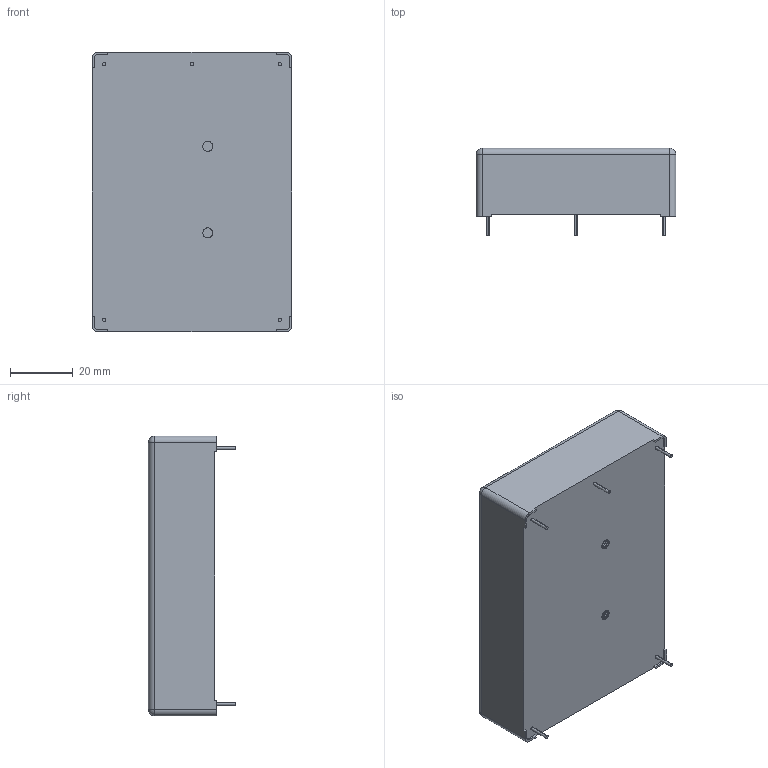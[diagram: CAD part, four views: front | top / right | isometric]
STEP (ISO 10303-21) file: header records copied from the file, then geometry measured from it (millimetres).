
FILE_DESCRIPTION (( 'STEP AP203' ), '1' );
FILE_NAME ('TMP 30 Single Output.STEP', '2020-11-20T01:03:02', ( '' ), ( '' ), 'SwSTEP 2.0', 'SolidWorks 2020', '' );
FILE_SCHEMA (( 'CONFIG_CONTROL_DESIGN' ));
Length unit declared in the file: millimetre
Products named in the file (1): TMP 30 Single Output
Bounding box: 63.5 x 27.7 x 88.9 mm (x, y, z)
Volume: 118164.6 mm3; surface area: 17698.2 mm2
Topology: 1 solids, 1 shells, 103 faces, 264 edges, 166 vertices
Faces by surface type: cylinder 54, plane 37, bspline 8, sphere 4
Entity records: 5856 total; most frequent: CARTESIAN_POINT 3489, ORIENTED_EDGE 520, DIRECTION 439, EDGE_CURVE 260, VERTEX_POINT 166, AXIS2_PLACEMENT_3D 152, VECTOR 135, LINE 135
